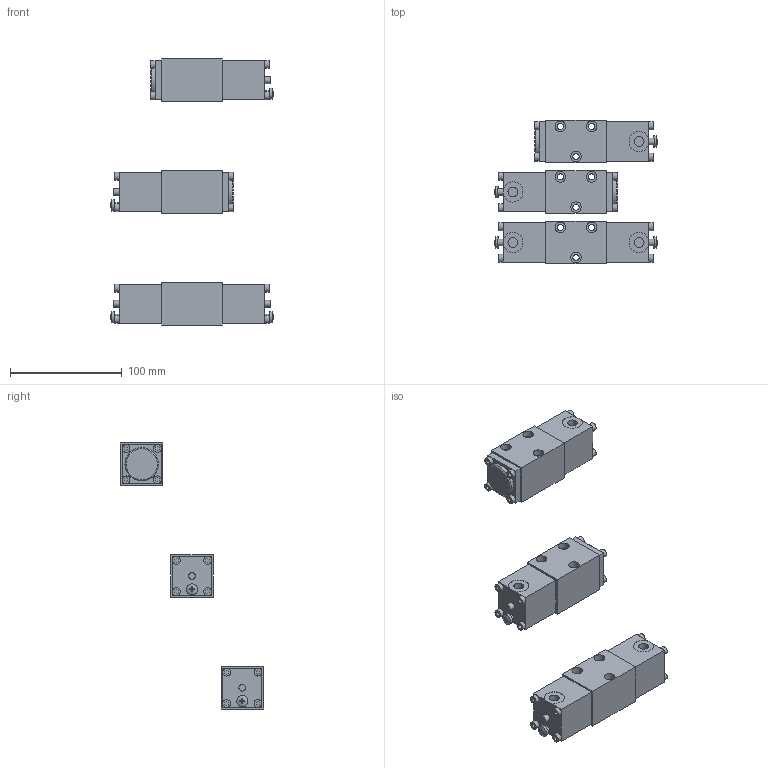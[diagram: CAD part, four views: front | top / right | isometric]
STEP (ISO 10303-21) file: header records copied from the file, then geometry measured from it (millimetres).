
FILE_DESCRIPTION(('Bauteilbeschreibung','HiCAD-Model','HiCAD-STEP-TRANSLATION','Bauteilbeschreibung'),'2;1');
FILE_NAME('P:/HICADDATEN/STEP_DXF/BK4_4.STP','2006-08-09T16:16:16+00:00',('Konstrukteur'),('Konstrukteur Firma GmbH'),'HiCAD3 V1210 STEP 1.6.2005','HiCAD3 V1210','confidential');
FILE_SCHEMA(('AUTOMOTIVE_DESIGN { 1 2 10303 214 0 1 1 1 }'));
Length unit declared in the file: millimetre
Products named in the file (52): BK4_4; BK4D4; B843DEFE; A5E16FAE; A012B9BD; A012B9BD0; IN6KTM4; IN6KTM40; IN6KTM41; IN6KTM42; IN6KTM43; A012B9BD1; A012B9BD2; IN6KTM44; IN6KTM45; IN6KTM46; IN6KTM47; IN6KTM48; BK4Z4_A; ADE91F5D; A5E16FAE0; A012B9BD3; A012B9BD4; IN6KTM49; IN6KTM410; IN6KTM411; IN6KTM412; IN6KTM413; AA75327F; AA75327F0; IN6KTM414; IN6KTM415; IN6KTM416; IN6KTM417; IN6KTM418; BK4Z4_B; E257FF59; A5E16FAE1; A012B9BD5; A012B9BD6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
Assembly tree (51 placements, depth 6):
  BK4_4
    BK4D4
      B843DEFE
        A5E16FAE
        A012B9BD
        A012B9BD0
          IN6KTM4
            IN6KTM40
            IN6KTM41
            IN6KTM42
            IN6KTM43
        A012B9BD1
        A012B9BD2
          IN6KTM44
            IN6KTM45
            IN6KTM46
            IN6KTM47
            IN6KTM48
    BK4Z4_A
      ADE91F5D
        A5E16FAE0
        A012B9BD3
        A012B9BD4
          IN6KTM49
            IN6KTM410
            IN6KTM411
            IN6KTM412
            IN6KTM413
        AA75327F
        AA75327F0
          IN6KTM414
            IN6KTM415
            IN6KTM416
            IN6KTM417
            IN6KTM418
    BK4Z4_B
      E257FF59
        A5E16FAE1
        A012B9BD5
        A012B9BD6
          IN6KTM419
            IN6KTM420
            IN6KTM421
            IN6KTM422
            IN6KTM423
        AA75327F1
        AA75327F2
          IN6KTM424
            IN6KTM425
            IN6KTM426
            IN6KTM427
            IN6KTM428
Bounding box: 145.87 x 128 x 238 mm (x, y, z)
Volume: 418094.9 mm3; surface area: 96394.6 mm2
Topology: 33 solids, 33 shells, 581 faces, 1246 edges, 825 vertices
Faces by surface type: plane 432, cylinder 143, sphere 4, cone 2
Full cylindrical faces by diameter (mm): 4 x24, 4.5 x24, 5 x4, 5.5 x9, 6 x4, 7 x24, 8.5 x15, 8.7 x4, 9.5 x9, 10 x4, 30 x2
Entity records: 25639 total; most frequent: DIRECTION 2738, CARTESIAN_POINT 2459, ORIENTED_EDGE 2072, COLOUR_RGB 1650, PRESENTATION_STYLE_ASSIGNMENT 1650, OVER_RIDING_STYLED_ITEM 1617, CURVE_STYLE 1036, DRAUGHTING_PRE_DEFINED_CURVE_FONT 1036
